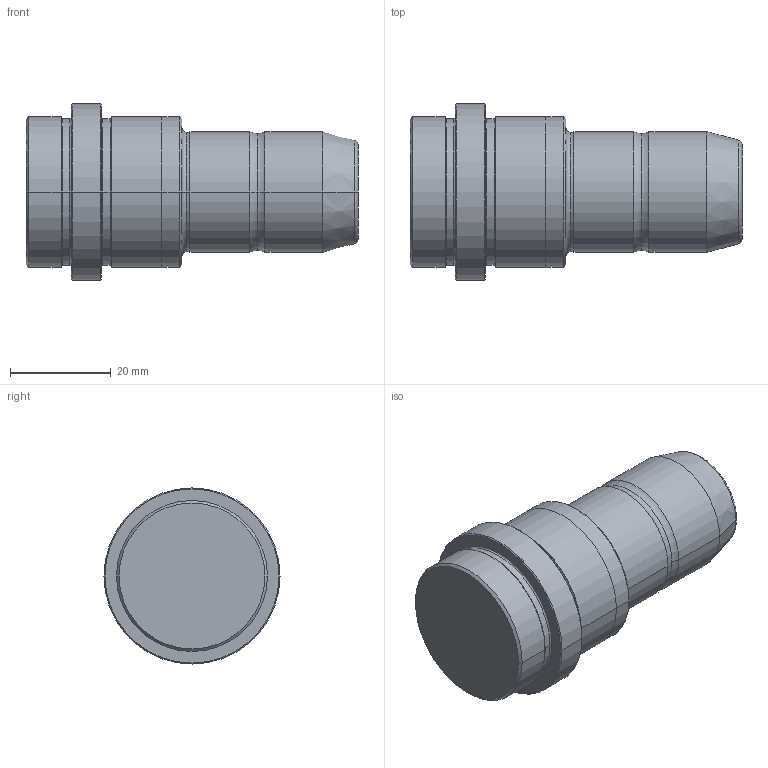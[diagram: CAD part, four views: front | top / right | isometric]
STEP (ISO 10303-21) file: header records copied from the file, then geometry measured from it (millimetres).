
FILE_DESCRIPTION (( 'STEP AP203' ), '1' );
FILE_NAME ('GDP-EC-24-022-035.step', '2015-12-04T01:18:43', ( '' ), ( '' ), 'SwSTEP 2.0', 'SolidWorks 2009', '' );
FILE_SCHEMA (( 'CONFIG_CONTROL_DESIGN' ));
Length unit declared in the file: millimetre
Products named in the file (1): GDP-EC-24-022-035
Bounding box: 66 x 35 x 35 mm (x, y, z)
Volume: 38567.2 mm3; surface area: 7410.4 mm2
Topology: 1 solids, 1 shells, 52 faces, 102 edges, 58 vertices
Faces by surface type: torus 18, cylinder 16, cone 10, plane 8
Entity records: 1419 total; most frequent: DIRECTION 284, CARTESIAN_POINT 213, ORIENTED_EDGE 204, AXIS2_PLACEMENT_3D 129, EDGE_CURVE 102, CIRCLE 76, EDGE_LOOP 58, VERTEX_POINT 58
